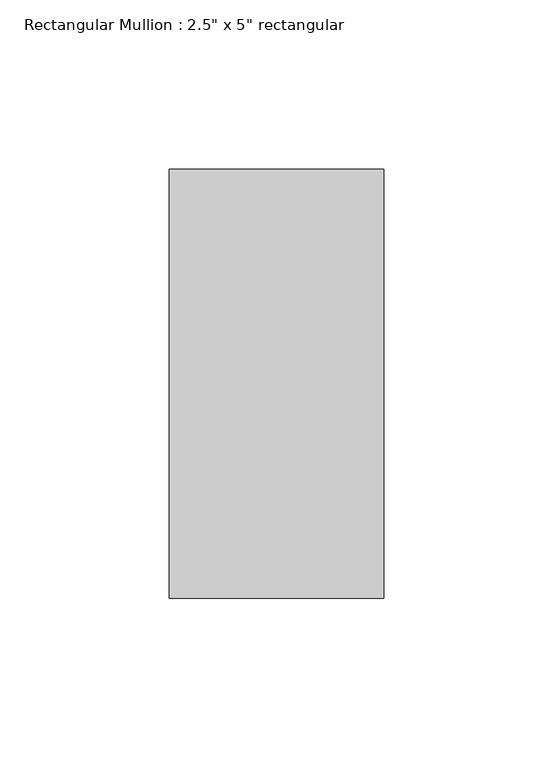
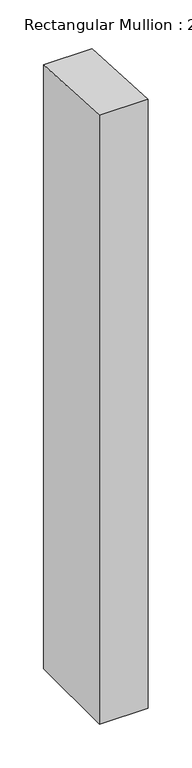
"""IFC4 building model written with IfcOpenShell, lengths in millimetres: member geometry."""

from ifc_helpers import new_model, si_unit, frame, origin, place, context, project, spatial, polyline, outline, extrude, source, transform, mapped, element, save


def member_a04b3e9c(model_context):
    return source(origin(), model_context, "Body", "SweptSolid", [
        extrude(outline(polyline([(-63.5, 3.362845), (63.5, -3.362845), (63.5, -841.5886487), (-63.5, -841.5886487), (-63.5, 3.362845)])), frame((-63.5, 0.0, 0.0), z_axis=(1.0, 0.0, 0.0), x_axis=(0.0, 1.0, 0.0)), (0.0, 0.0, 1.0), 63.5),
    ])


if __name__ == "__main__":
    model = new_model("IFC4")
    model_context = context("Model", 3, world=origin())
    ifc_project = project(units=[si_unit("LENGTHUNIT", "METRE", prefix="MILLI")], contexts=[model_context])
    site = spatial("IfcSite", under=ifc_project)
    building = spatial("IfcBuilding", under=site)
    placement = place(None, origin())
    member_shape = member_a04b3e9c(model_context)
    element("IfcMember", 1, ObjectType="Rectangular Mullion : 2.5\" x 5\" rectangular", at=placement, inside=building, context=model_context, shape_type="MappedRepresentation", body=[
        mapped(member_shape, transform((0.0, 0.0, 0.0), x_axis=(1.0, 0.0, 0.0), y_axis=(0.0, 1.0, 0.0), z_axis=(0.0, 0.0, 1.0))),
    ])
    save(model, "model.ifc")
